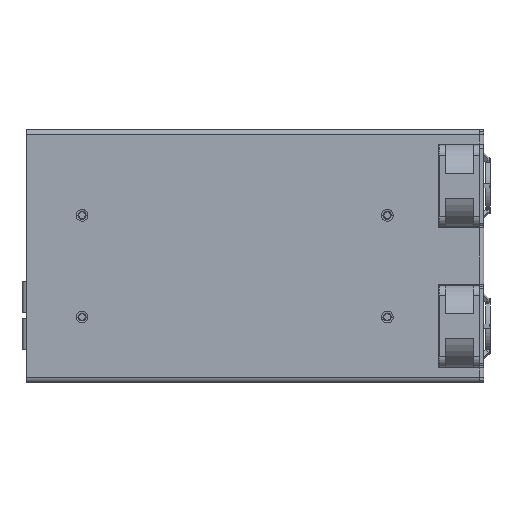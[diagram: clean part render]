
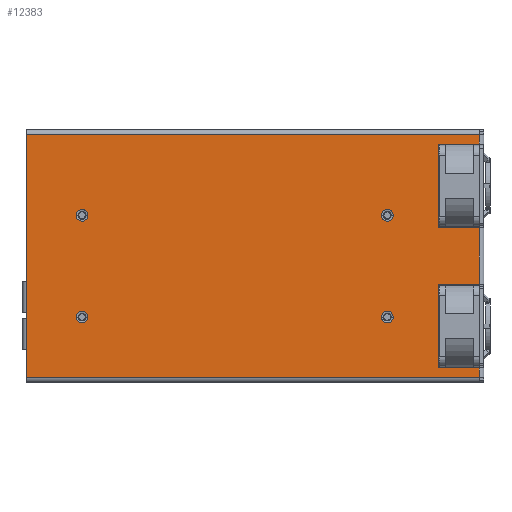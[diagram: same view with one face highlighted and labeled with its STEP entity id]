
A CAD part, front view. The second image highlights one B-rep face of the part: STEP entity #12383.
In plain terms, the highlighted planar face has unit normal (0, -1, 0) as drawn and (0, 0, -1) by its records, which use the part's own axes.
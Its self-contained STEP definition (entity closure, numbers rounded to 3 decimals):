
#1402=DIRECTION('',(1.,0.,0.));
#1403=VECTOR('',#1402,222.8);
#1404=CARTESIAN_POINT('',(0.,-59.8,0.));
#1405=LINE('',#1404,#1403);
#1539=CARTESIAN_POINT('',(27.5,-20.,0.));
#1540=DIRECTION('',(0.,0.,-1.));
#1541=DIRECTION('',(-1.,0.,0.));
#1542=AXIS2_PLACEMENT_3D('',#1539,#1540,#1541);
#1554=CARTESIAN_POINT('',(27.5,-20.,0.));
#1555=DIRECTION('',(0.,0.,-1.));
#1556=DIRECTION('',(1.,0.,0.));
#1557=AXIS2_PLACEMENT_3D('',#1554,#1555,#1556);
#1591=DIRECTION('',(-1.,0.,0.));
#1592=VECTOR('',#1591,20.3);
#1593=CARTESIAN_POINT('',(222.8,-55.,0.));
#1594=LINE('',#1593,#1592);
#1595=DIRECTION('',(0.,1.,0.));
#1596=VECTOR('',#1595,41.);
#1597=CARTESIAN_POINT('',(202.5,-55.,0.));
#1598=LINE('',#1597,#1596);
#1599=DIRECTION('',(-1.,0.,0.));
#1600=VECTOR('',#1599,20.3);
#1601=CARTESIAN_POINT('',(222.8,-14.,0.));
#1602=LINE('',#1601,#1600);
#1603=DIRECTION('',(-1.,0.,0.));
#1604=VECTOR('',#1603,20.3);
#1605=CARTESIAN_POINT('',(222.8,14.,0.));
#1606=LINE('',#1605,#1604);
#1607=DIRECTION('',(0.,-1.,0.));
#1608=VECTOR('',#1607,41.);
#1609=CARTESIAN_POINT('',(202.5,55.,0.));
#1610=LINE('',#1609,#1608);
#1611=DIRECTION('',(-1.,0.,0.));
#1612=VECTOR('',#1611,20.3);
#1613=CARTESIAN_POINT('',(222.8,55.,0.));
#1614=LINE('',#1613,#1612);
#1615=DIRECTION('',(0.,-1.,0.));
#1616=VECTOR('',#1615,119.6);
#1617=CARTESIAN_POINT('',(0.,59.8,0.));
#1618=LINE('',#1617,#1616);
#1624=CARTESIAN_POINT('',(27.5,30.,0.));
#1625=DIRECTION('',(0.,0.,-1.));
#1626=DIRECTION('',(-1.,0.,0.));
#1627=AXIS2_PLACEMENT_3D('',#1624,#1625,#1626);
#1647=CARTESIAN_POINT('',(27.5,30.,0.));
#1648=DIRECTION('',(0.,0.,-1.));
#1649=DIRECTION('',(1.,0.,0.));
#1650=AXIS2_PLACEMENT_3D('',#1647,#1648,#1649);
#1746=CARTESIAN_POINT('',(177.5,30.,0.));
#1747=DIRECTION('',(0.,0.,-1.));
#1748=DIRECTION('',(1.,0.,0.));
#1749=AXIS2_PLACEMENT_3D('',#1746,#1747,#1748);
#1769=CARTESIAN_POINT('',(177.5,30.,0.));
#1770=DIRECTION('',(0.,0.,-1.));
#1771=DIRECTION('',(-1.,0.,0.));
#1772=AXIS2_PLACEMENT_3D('',#1769,#1770,#1771);
#1868=CARTESIAN_POINT('',(177.5,-20.,0.));
#1869=DIRECTION('',(0.,0.,-1.));
#1870=DIRECTION('',(1.,0.,0.));
#1871=AXIS2_PLACEMENT_3D('',#1868,#1869,#1870);
#1891=CARTESIAN_POINT('',(177.5,-20.,0.));
#1892=DIRECTION('',(0.,0.,-1.));
#1893=DIRECTION('',(-1.,0.,0.));
#1894=AXIS2_PLACEMENT_3D('',#1891,#1892,#1893);
#1999=DIRECTION('',(0.,1.,0.));
#2000=VECTOR('',#1999,4.8);
#2001=CARTESIAN_POINT('',(222.8,-59.8,0.));
#2002=LINE('',#2001,#2000);
#5402=DIRECTION('',(0.,1.,0.));
#5403=VECTOR('',#5402,4.8);
#5404=CARTESIAN_POINT('',(222.8,55.,0.));
#5405=LINE('',#5404,#5403);
#5449=DIRECTION('',(0.,1.,0.));
#5450=VECTOR('',#5449,28.);
#5451=CARTESIAN_POINT('',(222.8,-14.,0.));
#5452=LINE('',#5451,#5450);
#5551=DIRECTION('',(-1.,0.,0.));
#5552=VECTOR('',#5551,222.8);
#5553=CARTESIAN_POINT('',(222.8,59.8,0.));
#5554=LINE('',#5553,#5552);
#7382=CARTESIAN_POINT('',(0.,-59.8,0.));
#7384=VERTEX_POINT('',#7382);
#7394=CARTESIAN_POINT('',(0.,59.8,0.));
#7396=VERTEX_POINT('',#7394);
#7405=CARTESIAN_POINT('',(202.5,-55.,0.));
#7406=CARTESIAN_POINT('',(202.5,-14.,0.));
#7407=VERTEX_POINT('',#7405);
#7408=VERTEX_POINT('',#7406);
#7409=CARTESIAN_POINT('',(222.8,-14.,0.));
#7410=VERTEX_POINT('',#7409);
#7411=CARTESIAN_POINT('',(222.8,14.,0.));
#7412=CARTESIAN_POINT('',(202.5,14.,0.));
#7413=VERTEX_POINT('',#7411);
#7414=VERTEX_POINT('',#7412);
#7415=CARTESIAN_POINT('',(202.5,55.,0.));
#7416=VERTEX_POINT('',#7415);
#8473=CARTESIAN_POINT('',(24.625,-20.,0.));
#8474=CARTESIAN_POINT('',(30.375,-20.,0.));
#8475=VERTEX_POINT('',#8473);
#8476=VERTEX_POINT('',#8474);
#8493=CARTESIAN_POINT('',(24.625,30.,0.));
#8494=CARTESIAN_POINT('',(30.375,30.,0.));
#8495=VERTEX_POINT('',#8493);
#8496=VERTEX_POINT('',#8494);
#8509=CARTESIAN_POINT('',(180.375,30.,0.));
#8510=CARTESIAN_POINT('',(174.625,30.,0.));
#8511=VERTEX_POINT('',#8509);
#8512=VERTEX_POINT('',#8510);
#8525=CARTESIAN_POINT('',(180.375,-20.,0.));
#8526=CARTESIAN_POINT('',(174.625,-20.,0.));
#8527=VERTEX_POINT('',#8525);
#8528=VERTEX_POINT('',#8526);
#8649=CARTESIAN_POINT('',(222.8,-55.,0.));
#8650=VERTEX_POINT('',#8649);
#8651=CARTESIAN_POINT('',(222.8,55.,0.));
#8652=VERTEX_POINT('',#8651);
#8662=CARTESIAN_POINT('',(222.8,59.8,
0.));
#8664=VERTEX_POINT('',#8662);
#8665=CARTESIAN_POINT('',(222.8,-59.8,0.));
#8666=VERTEX_POINT('',#8665);
#12331=CARTESIAN_POINT('',(0.,0.,0.));
#12332=DIRECTION('',(0.,0.,1.));
#12333=DIRECTION('',(1.,0.,0.));
#12334=AXIS2_PLACEMENT_3D('',#12331,#12332,#12333);
#12335=PLANE('',#12334);
#12336=ORIENTED_EDGE('',*,*,#11942,.T.);
#12338=ORIENTED_EDGE('',*,*,#12337,.T.);
#12340=ORIENTED_EDGE('',*,*,#12339,.T.);
#12342=ORIENTED_EDGE('',*,*,#12341,.T.);
#12344=ORIENTED_EDGE('',*,*,#12343,.F.);
#12346=ORIENTED_EDGE('',*,*,#12345,.T.);
#12348=ORIENTED_EDGE('',*,*,#12347,.T.);
#12350=ORIENTED_EDGE('',*,*,#12349,.F.);
#12352=ORIENTED_EDGE('',*,*,#12351,.F.);
#12354=ORIENTED_EDGE('',*,*,#12353,.T.);
#12356=ORIENTED_EDGE('',*,*,#12355,.T.);
#12358=ORIENTED_EDGE('',*,*,#12357,.T.);
#12359=EDGE_LOOP('',(#12336,#12338,#12340,#12342,#12344,#12346,#12348,#12350,
#12352,#12354,#12356,#12358));
#12360=FACE_OUTER_BOUND('',#12359,.F.);
#12362=ORIENTED_EDGE('',*,*,#12361,.T.);
#12364=ORIENTED_EDGE('',*,*,#12363,.T.);
#12365=EDGE_LOOP('',(#12362,#12364));
#12366=FACE_BOUND('',#12365,.F.);
#12368=ORIENTED_EDGE('',*,*,#12367,.T.);
#12370=ORIENTED_EDGE('',*,*,#12369,.T.);
#12371=EDGE_LOOP('',(#12368,#12370));
#12372=FACE_BOUND('',#12371,.F.);
#12374=ORIENTED_EDGE('',*,*,#12373,.T.);
#12376=ORIENTED_EDGE('',*,*,#12375,.T.);
#12377=EDGE_LOOP('',(#12374,#12376));
#12378=FACE_BOUND('',#12377,.F.);
#12379=ORIENTED_EDGE('',*,*,#12237,.T.);
#12380=ORIENTED_EDGE('',*,*,#12259,.T.);
#12381=EDGE_LOOP('',(#12379,#12380));
#12382=FACE_BOUND('',#12381,.F.);
#1543=CIRCLE('',#1542,2.875);
#1558=CIRCLE('',#1557,2.875);
#1628=CIRCLE('',#1627,2.875);
#1651=CIRCLE('',#1650,2.875);
#1750=CIRCLE('',#1749,2.875);
#1773=CIRCLE('',#1772,2.875);
#1872=CIRCLE('',#1871,2.875);
#1895=CIRCLE('',#1894,2.875);
#11942=EDGE_CURVE('',#7384,#8666,#1405,.T.);
#12237=EDGE_CURVE('',#8475,#8476,#1543,.T.);
#12259=EDGE_CURVE('',#8476,#8475,#1558,.T.);
#12337=EDGE_CURVE('',#8666,#8650,#2002,.T.);
#12339=EDGE_CURVE('',#8650,#7407,#1594,.T.);
#12341=EDGE_CURVE('',#7407,#7408,#1598,.T.);
#12343=EDGE_CURVE('',#7410,#7408,#1602,.T.);
#12345=EDGE_CURVE('',#7410,#7413,#5452,.T.);
#12347=EDGE_CURVE('',#7413,#7414,#1606,.T.);
#12349=EDGE_CURVE('',#7416,#7414,#1610,.T.);
#12351=EDGE_CURVE('',#8652,#7416,#1614,.T.);
#12353=EDGE_CURVE('',#8652,#8664,#5405,.T.);
#12355=EDGE_CURVE('',#8664,#7396,#5554,.T.);
#12357=EDGE_CURVE('',#7396,#7384,#1618,.T.);
#12361=EDGE_CURVE('',#8495,#8496,#1628,.T.);
#12363=EDGE_CURVE('',#8496,#8495,#1651,.T.);
#12367=EDGE_CURVE('',#8511,#8512,#1750,.T.);
#12369=EDGE_CURVE('',#8512,#8511,#1773,.T.);
#12373=EDGE_CURVE('',#8527,#8528,#1872,.T.);
#12375=EDGE_CURVE('',#8528,#8527,#1895,.T.);
#12383=ADVANCED_FACE('',(#12360,#12366,#12372,#12378,#12382),#12335,.F.);
